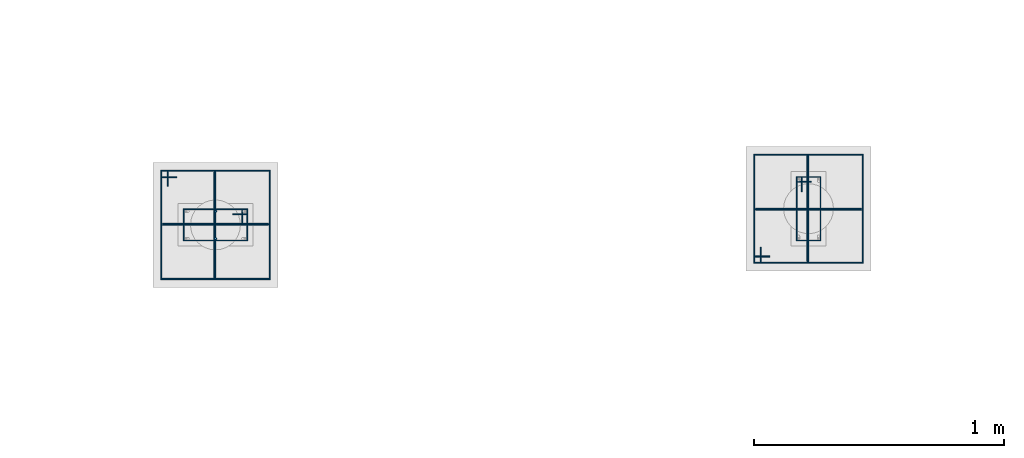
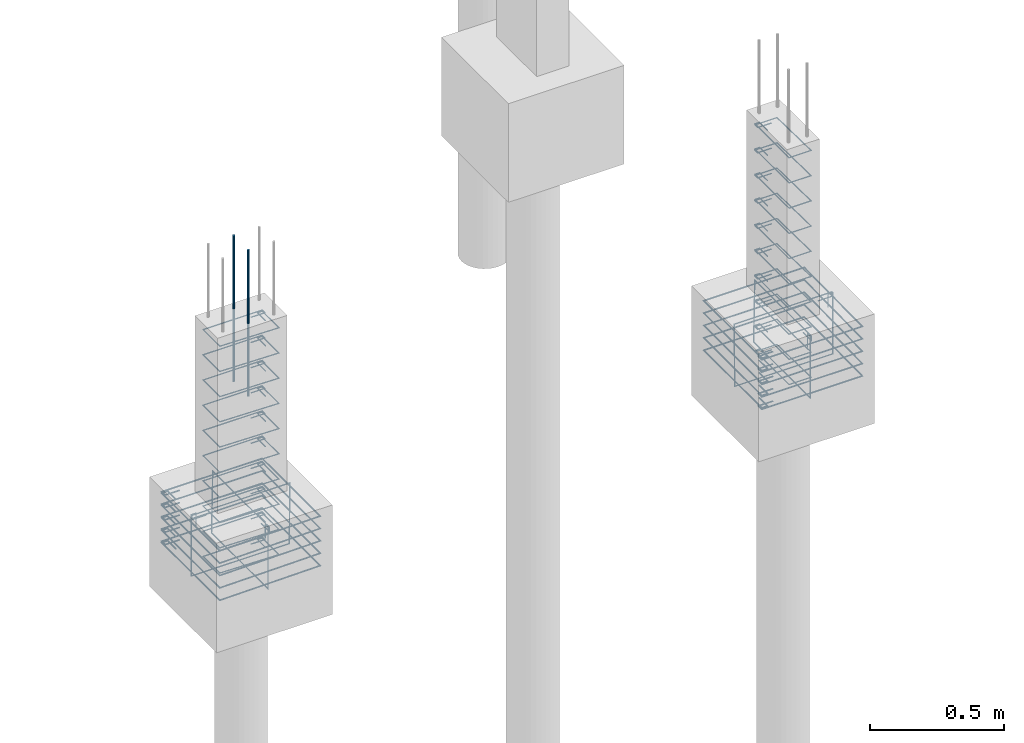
# One storey, part 84 of 119: 36 reinforcing bars.
"""IFC4 building model written with IfcOpenShell, lengths in centimetres."""

from ifc_helpers import new_model, entity, si_unit, derived_unit, frame, origin_with_axes, place, context, project, spatial, source, transform, mapped, element, save


model = new_model("IFC4")

# Units and contexts
model_context = context("Model", 3, precision=1e-05, world=origin_with_axes(), identifier="Body")
ifc_project = project(units=[si_unit("LENGTHUNIT", "METRE", prefix="CENTI"), si_unit("VOLUMEUNIT", "CUBIC_METRE"), si_unit("AREAUNIT", "SQUARE_METRE"), si_unit("POWERUNIT", "WATT"), si_unit("LUMINOUSFLUXUNIT", "LUMEN"), si_unit("ELECTRICCURRENTUNIT", "AMPERE"), si_unit("PRESSUREUNIT", "PASCAL", prefix="KILO"), si_unit("MASSUNIT", "GRAM", prefix="KILO"), si_unit("PLANEANGLEUNIT", "RADIAN"), derived_unit("VOLUMETRICFLOWRATEUNIT", [(si_unit("LENGTHUNIT", "METRE"), 3), (si_unit("TIMEUNIT", "SECOND"), -1)])], contexts=[model_context])

# Site, building, storey
site_placement = place(None, frame((-4000.0, 0.0, 0.0), z_axis=(0.0, 0.0, 1.0), x_axis=(1.0, 0.0, 0.0)))
site = spatial("IfcSite", under=ifc_project, at=site_placement, Name="PADRÃO")
building_placement = place(site_placement, frame((0.0, 0.0, -14.0)))
building = spatial("IfcBuilding", under=site, at=building_placement, Name="CRECHE PRÉ-ESCOLA TIPO 2")
storey_placement = place(building_placement, origin_with_axes())
storey = spatial("IfcBuildingStorey", under=building, at=storey_placement, Name="FUNDAÇÃO", CompositionType="ELEMENT", Elevation=-14.0)

# Reinforcing bars
shared_shape_1 = source(origin_with_axes(), model_context, "Body", "AdvancedSweptSolid", [
    entity("IfcSweptDiskSolid", entity("IfcCompositeCurve", [entity("IfcCompositeCurveSegment", "CONTINUOUS", True, entity("IfcPolyline", [entity("IfcCartesianPoint", [4.25, 21.75, 0.0]), entity("IfcCartesianPoint", [4.25, 27.75, 0.0])])), entity("IfcCompositeCurveSegment", "CONTINUOUS", True, entity("IfcPolyline", [entity("IfcCartesianPoint", [4.25, 27.75, 0.0]), entity("IfcCartesianPoint", [2.25, 27.75, 0.0])])), entity("IfcCompositeCurveSegment", "CONTINUOUS", True, entity("IfcPolyline", [entity("IfcCartesianPoint", [2.25, 27.75, 0.0]), entity("IfcCartesianPoint", [2.25, 2.25, 0.0])])), entity("IfcCompositeCurveSegment", "CONTINUOUS", True, entity("IfcPolyline", [entity("IfcCartesianPoint", [2.25, 2.25, 0.0]), entity("IfcCartesianPoint", [14.75, 2.25, 0.0])])), entity("IfcCompositeCurveSegment", "CONTINUOUS", True, entity("IfcPolyline", [entity("IfcCartesianPoint", [14.75, 2.25, 0.0]), entity("IfcCartesianPoint", [14.75, 27.75, -0.5])])), entity("IfcCompositeCurveSegment", "CONTINUOUS", True, entity("IfcPolyline", [entity("IfcCartesianPoint", [14.75, 27.75, -0.5]), entity("IfcCartesianPoint", [2.25, 27.75, -0.5])])), entity("IfcCompositeCurveSegment", "CONTINUOUS", True, entity("IfcPolyline", [entity("IfcCartesianPoint", [2.25, 27.75, -0.5]), entity("IfcCartesianPoint", [2.25, 25.75, -0.5])])), entity("IfcCompositeCurveSegment", "CONTINUOUS", True, entity("IfcPolyline", [entity("IfcCartesianPoint", [2.25, 25.75, -0.5]), entity("IfcCartesianPoint", [8.25, 25.75, -0.5])]))], False), 0.25),
])
for number, where, z_axis, x_axis, name in (
    (1, (251.0, 1823.5, -51.75), (0.0, 0.0, 1.0), (0.0, -1.0, 0.0), "P94 - Estribo"),
    (2, (251.0, 1823.5, -40.25), (0.0, 0.0, 1.0), (0.0, -1.0, 0.0), "P94 - Estribo"),
    (3, (251.0, 1823.5, -28.75), (0.0, 0.0, 1.0), (0.0, -1.0, 0.0), "P94 - Estribo"),
    (4, (251.0, 1823.5, -5.75), (0.0, 0.0, 1.0), (0.0, -1.0, 0.0), "P94 - Estribo"),
    (5, (251.0, 1823.5, -17.25), (0.0, 0.0, 1.0), (0.0, -1.0, 0.0), "P94 - Estribo"),
    (6, (251.0, 1823.5, -109.25), (0.0, 0.0, 1.0), (0.0, -1.0, 0.0), "P94 - Estribo"),
    (7, (251.0, 1823.5, -63.25), (0.0, 0.0, 1.0), (0.0, -1.0, 0.0), "P94 - Estribo"),
    (8, (251.0, 1823.5, -74.75), (0.0, 0.0, 1.0), (0.0, -1.0, 0.0), "P94 - Estribo"),
    (9, (251.0, 1823.5, -86.25), (0.0, 0.0, 1.0), (0.0, -1.0, 0.0), "P94 - Estribo"),
    (10, (251.0, 1823.5, -97.75), (0.0, 0.0, 1.0), (0.0, -1.0, 0.0), "P94 - Estribo"),
):
    element("IfcReinforcingBar", number, at=place(storey_placement, frame(where, z_axis=z_axis, x_axis=x_axis)), inside=storey, Name=name, BarLength=0.0, CrossSectionArea=1.9634954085e-05, NominalDiameter=0.5, PredefinedType="MAIN", context=model_context, shape_type="MappedRepresentation", body=[
        mapped(shared_shape_1, transform((0.0, 0.0, 0.0), scale=1.0)),
    ])
shared_shape_2 = source(origin_with_axes(), model_context, "Body", "AdvancedSweptSolid", [
    entity("IfcSweptDiskSolid", entity("IfcCompositeCurve", [entity("IfcCompositeCurveSegment", "CONTINUOUS", True, entity("IfcPolyline", [entity("IfcCartesianPoint", [246.835, 1830.425, 0.0]), entity("IfcCartesianPoint", [246.835, 1836.685, 0.0])])), entity("IfcCompositeCurveSegment", "CONTINUOUS", True, entity("IfcPolyline", [entity("IfcCartesianPoint", [246.835, 1836.685, 0.0]), entity("IfcCartesianPoint", [244.315, 1836.685, 0.0])])), entity("IfcCompositeCurveSegment", "CONTINUOUS", True, entity("IfcPolyline", [entity("IfcCartesianPoint", [244.315, 1836.685, 0.0]), entity("IfcCartesianPoint", [244.315, 1793.315, 0.0])])), entity("IfcCompositeCurveSegment", "CONTINUOUS", True, entity("IfcPolyline", [entity("IfcCartesianPoint", [244.315, 1793.315, 0.0]), entity("IfcCartesianPoint", [287.685, 1793.315, 0.63])])), entity("IfcCompositeCurveSegment", "CONTINUOUS", True, entity("IfcPolyline", [entity("IfcCartesianPoint", [287.685, 1793.315, 0.63]), entity("IfcCartesianPoint", [287.685, 1836.685, 0.63])])), entity("IfcCompositeCurveSegment", "CONTINUOUS", True, entity("IfcPolyline", [entity("IfcCartesianPoint", [287.685, 1836.685, 0.63]), entity("IfcCartesianPoint", [244.315, 1836.685, 0.63])])), entity("IfcCompositeCurveSegment", "CONTINUOUS", True, entity("IfcPolyline", [entity("IfcCartesianPoint", [244.315, 1836.685, 0.63]), entity("IfcCartesianPoint", [244.315, 1834.165, 0.63])])), entity("IfcCompositeCurveSegment", "CONTINUOUS", True, entity("IfcPolyline", [entity("IfcCartesianPoint", [244.315, 1834.165, 0.63]), entity("IfcCartesianPoint", [250.575, 1834.165, 0.63])]))], False), 0.315),
])
for number, where, z_axis, x_axis, name in (
    (11, (0.0, 0.0, -103.525), (0.0, 0.0, 1.0), (1.0, 0.0, 0.0), "P94 - Blocos (estribos)"),
    (12, (0.0, 0.0, -109.175), (0.0, 0.0, 1.0), (1.0, 0.0, 0.0), "P94 - Blocos (estribos)"),
    (13, (0.0, 0.0, -92.225), (0.0, 0.0, 1.0), (1.0, 0.0, 0.0), "P94 - Blocos (estribos)"),
    (14, (0.0, 0.0, -86.575), (0.0, 0.0, 1.0), (1.0, 0.0, 0.0), "P94 - Blocos (estribos)"),
    (15, (0.0, 0.0, -97.875), (0.0, 0.0, 1.0), (1.0, 0.0, 0.0), "P94 - Blocos (estribos)"),
):
    element("IfcReinforcingBar", number, at=place(storey_placement, frame(where, z_axis=z_axis, x_axis=x_axis)), inside=storey, Name=name, BarLength=0.0, CrossSectionArea=3.1172453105e-05, NominalDiameter=0.63, PredefinedType="MAIN", context=model_context, shape_type="MappedRepresentation", body=[
        mapped(shared_shape_2, transform((0.0, 0.0, 0.0), scale=1.0)),
    ])
shared_shape_3 = source(origin_with_axes(), model_context, "Body", "AdvancedSweptSolid", [
    entity("IfcSweptDiskSolid", entity("IfcCompositeCurve", [entity("IfcCompositeCurveSegment", "CONTINUOUS", True, entity("IfcPolyline", [entity("IfcCartesianPoint", [-15.12, -12.0, 0.0]), entity("IfcCartesianPoint", [-21.12, -12.0, 0.0])])), entity("IfcCompositeCurveSegment", "CONTINUOUS", True, entity("IfcPolyline", [entity("IfcCartesianPoint", [-21.12, -12.0, 0.0]), entity("IfcCartesianPoint", [-21.12, -14.0, 0.0])])), entity("IfcCompositeCurveSegment", "CONTINUOUS", True, entity("IfcPolyline", [entity("IfcCartesianPoint", [-21.12, -14.0, 0.0]), entity("IfcCartesianPoint", [21.12, -14.0, 0.0])])), entity("IfcCompositeCurveSegment", "CONTINUOUS", True, entity("IfcPolyline", [entity("IfcCartesianPoint", [21.12, -14.0, 0.0]), entity("IfcCartesianPoint", [21.12, 14.0, 0.5])])), entity("IfcCompositeCurveSegment", "CONTINUOUS", True, entity("IfcPolyline", [entity("IfcCartesianPoint", [21.12, 14.0, 0.5]), entity("IfcCartesianPoint", [-21.12, 14.0, 0.5])])), entity("IfcCompositeCurveSegment", "CONTINUOUS", True, entity("IfcPolyline", [entity("IfcCartesianPoint", [-21.12, 14.0, 0.5]), entity("IfcCartesianPoint", [-21.12, -14.0, 0.5])])), entity("IfcCompositeCurveSegment", "CONTINUOUS", True, entity("IfcPolyline", [entity("IfcCartesianPoint", [-21.12, -14.0, 0.5]), entity("IfcCartesianPoint", [-19.12, -14.0, 0.5])])), entity("IfcCompositeCurveSegment", "CONTINUOUS", True, entity("IfcPolyline", [entity("IfcCartesianPoint", [-19.12, -14.0, 0.5]), entity("IfcCartesianPoint", [-19.12, -8.0, 0.5])]))], False), 0.25),
])
reinforcing_bar_1_placement = place(storey_placement, frame((266.0, 1815.0, -97.75), z_axis=(0.0, 1.0, 0.0), x_axis=(1.0, 0.0, 0.0)))
element("IfcReinforcingBar", 16, at=reinforcing_bar_1_placement, inside=storey, Name="P94 - Blocos (estribos)", BarLength=0.0, CrossSectionArea=1.9634954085e-05, NominalDiameter=0.5, PredefinedType="MAIN", context=model_context, shape_type="MappedRepresentation", body=[
    mapped(shared_shape_3, transform((0.0, 0.0, 0.0), scale=1.0)),
])
shared_shape_4 = source(origin_with_axes(), model_context, "Body", "AdvancedSweptSolid", [
    entity("IfcSweptDiskSolid", entity("IfcCompositeCurve", [entity("IfcCompositeCurveSegment", "CONTINUOUS", True, entity("IfcPolyline", [entity("IfcCartesianPoint", [-15.12, -12.0, 0.0]), entity("IfcCartesianPoint", [-21.12, -12.0, 0.0])])), entity("IfcCompositeCurveSegment", "CONTINUOUS", True, entity("IfcPolyline", [entity("IfcCartesianPoint", [-21.12, -12.0, 0.0]), entity("IfcCartesianPoint", [-21.12, -14.0, 0.0])])), entity("IfcCompositeCurveSegment", "CONTINUOUS", True, entity("IfcPolyline", [entity("IfcCartesianPoint", [-21.12, -14.0, 0.0]), entity("IfcCartesianPoint", [21.12, -14.0, 0.0])])), entity("IfcCompositeCurveSegment", "CONTINUOUS", True, entity("IfcPolyline", [entity("IfcCartesianPoint", [21.12, -14.0, 0.0]), entity("IfcCartesianPoint", [21.12, 14.0, 0.5])])), entity("IfcCompositeCurveSegment", "CONTINUOUS", True, entity("IfcPolyline", [entity("IfcCartesianPoint", [21.12, 14.0, 0.5]), entity("IfcCartesianPoint", [-21.12, 14.0, 0.5])])), entity("IfcCompositeCurveSegment", "CONTINUOUS", True, entity("IfcPolyline", [entity("IfcCartesianPoint", [-21.12, 14.0, 0.5]), entity("IfcCartesianPoint", [-21.12, -14.0, 0.5])])), entity("IfcCompositeCurveSegment", "CONTINUOUS", True, entity("IfcPolyline", [entity("IfcCartesianPoint", [-21.12, -14.0, 0.5]), entity("IfcCartesianPoint", [-19.12, -14.0, 0.5])])), entity("IfcCompositeCurveSegment", "CONTINUOUS", True, entity("IfcPolyline", [entity("IfcCartesianPoint", [-19.12, -14.0, 0.5]), entity("IfcCartesianPoint", [-19.12, -8.0, 0.5])]))], False), 0.25),
])
reinforcing_bar_2_placement = place(storey_placement, frame((266.0, 1815.0, -97.75), z_axis=(-1.0, 0.0, 0.0), x_axis=(0.0, 1.0, 0.0)))
element("IfcReinforcingBar", 17, at=reinforcing_bar_2_placement, inside=storey, Name="P94 - Blocos (estribos)", BarLength=0.0, CrossSectionArea=1.9634954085e-05, NominalDiameter=0.5, PredefinedType="MAIN", context=model_context, shape_type="MappedRepresentation", body=[
    mapped(shared_shape_4, transform((0.0, 0.0, 0.0), scale=1.0)),
])
shared_shape_5 = source(origin_with_axes(), model_context, "Body", "AdvancedSweptSolid", [
    entity("IfcSweptDiskSolid", entity("IfcCompositeCurve", [entity("IfcCompositeCurveSegment", "CONTINUOUS", True, entity("IfcPolyline", [entity("IfcCartesianPoint", [4.25, 21.75, 0.0]), entity("IfcCartesianPoint", [4.25, 27.75, 0.0])])), entity("IfcCompositeCurveSegment", "CONTINUOUS", True, entity("IfcPolyline", [entity("IfcCartesianPoint", [4.25, 27.75, 0.0]), entity("IfcCartesianPoint", [2.25, 27.75, 0.0])])), entity("IfcCompositeCurveSegment", "CONTINUOUS", True, entity("IfcPolyline", [entity("IfcCartesianPoint", [2.25, 27.75, 0.0]), entity("IfcCartesianPoint", [2.25, 2.25, 0.0])])), entity("IfcCompositeCurveSegment", "CONTINUOUS", True, entity("IfcPolyline", [entity("IfcCartesianPoint", [2.25, 2.25, 0.0]), entity("IfcCartesianPoint", [11.75, 2.25, 0.0])])), entity("IfcCompositeCurveSegment", "CONTINUOUS", True, entity("IfcPolyline", [entity("IfcCartesianPoint", [11.75, 2.25, 0.0]), entity("IfcCartesianPoint", [11.75, 27.75, -0.5])])), entity("IfcCompositeCurveSegment", "CONTINUOUS", True, entity("IfcPolyline", [entity("IfcCartesianPoint", [11.75, 27.75, -0.5]), entity("IfcCartesianPoint", [2.25, 27.75, -0.5])])), entity("IfcCompositeCurveSegment", "CONTINUOUS", True, entity("IfcPolyline", [entity("IfcCartesianPoint", [2.25, 27.75, -0.5]), entity("IfcCartesianPoint", [2.25, 25.75, -0.5])])), entity("IfcCompositeCurveSegment", "CONTINUOUS", True, entity("IfcPolyline", [entity("IfcCartesianPoint", [2.25, 25.75, -0.5]), entity("IfcCartesianPoint", [8.25, 25.75, -0.5])]))], False), 0.25),
])
for number, where, z_axis, x_axis, name in (
    (18, (496.69, 1806.5, -17.25), (0.0, 0.0, 1.0), (1.0, 0.0, 0.0), "P95 - Estribo"),
    (19, (496.69, 1806.5, -109.25), (0.0, 0.0, 1.0), (1.0, 0.0, 0.0), "P95 - Estribo"),
    (20, (496.69, 1806.5, -28.75), (0.0, 0.0, 1.0), (1.0, 0.0, 0.0), "P95 - Estribo"),
    (21, (496.69, 1806.5, -51.75), (0.0, 0.0, 1.0), (1.0, 0.0, 0.0), "P95 - Estribo"),
    (22, (496.69, 1806.5, -5.75), (0.0, 0.0, 1.0), (1.0, 0.0, 0.0), "P95 - Estribo"),
    (23, (496.69, 1806.5, -97.75), (0.0, 0.0, 1.0), (1.0, 0.0, 0.0), "P95 - Estribo"),
    (24, (496.69, 1806.5, -86.25), (0.0, 0.0, 1.0), (1.0, 0.0, 0.0), "P95 - Estribo"),
    (25, (496.69, 1806.5, -74.75), (0.0, 0.0, 1.0), (1.0, 0.0, 0.0), "P95 - Estribo"),
    (26, (496.69, 1806.5, -63.25), (0.0, 0.0, 1.0), (1.0, 0.0, 0.0), "P95 - Estribo"),
    (27, (496.69, 1806.5, -40.25), (0.0, 0.0, 1.0), (1.0, 0.0, 0.0), "P95 - Estribo"),
):
    element("IfcReinforcingBar", number, at=place(storey_placement, frame(where, z_axis=z_axis, x_axis=x_axis)), inside=storey, Name=name, BarLength=0.0, CrossSectionArea=1.9634954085e-05, NominalDiameter=0.5, PredefinedType="MAIN", context=model_context, shape_type="MappedRepresentation", body=[
        mapped(shared_shape_5, transform((0.0, 0.0, 0.0), scale=1.0)),
    ])
shared_shape_6 = source(origin_with_axes(), model_context, "Body", "AdvancedSweptSolid", [
    entity("IfcSweptDiskSolid", entity("IfcCompositeCurve", [entity("IfcCompositeCurveSegment", "CONTINUOUS", True, entity("IfcPolyline", [entity("IfcCartesianPoint", [488.265, 1802.335, 0.0]), entity("IfcCartesianPoint", [482.005, 1802.335, 0.0])])), entity("IfcCompositeCurveSegment", "CONTINUOUS", True, entity("IfcPolyline", [entity("IfcCartesianPoint", [482.005, 1802.335, 0.0]), entity("IfcCartesianPoint", [482.005, 1799.815, 0.0])])), entity("IfcCompositeCurveSegment", "CONTINUOUS", True, entity("IfcPolyline", [entity("IfcCartesianPoint", [482.005, 1799.815, 0.0]), entity("IfcCartesianPoint", [525.375, 1799.815, 0.0])])), entity("IfcCompositeCurveSegment", "CONTINUOUS", True, entity("IfcPolyline", [entity("IfcCartesianPoint", [525.375, 1799.815, 0.0]), entity("IfcCartesianPoint", [525.375, 1843.185, 0.63])])), entity("IfcCompositeCurveSegment", "CONTINUOUS", True, entity("IfcPolyline", [entity("IfcCartesianPoint", [525.375, 1843.185, 0.63]), entity("IfcCartesianPoint", [482.005, 1843.185, 0.63])])), entity("IfcCompositeCurveSegment", "CONTINUOUS", True, entity("IfcPolyline", [entity("IfcCartesianPoint", [482.005, 1843.185, 0.63]), entity("IfcCartesianPoint", [482.005, 1799.815, 0.63])])), entity("IfcCompositeCurveSegment", "CONTINUOUS", True, entity("IfcPolyline", [entity("IfcCartesianPoint", [482.005, 1799.815, 0.63]), entity("IfcCartesianPoint", [484.525, 1799.815, 0.63])])), entity("IfcCompositeCurveSegment", "CONTINUOUS", True, entity("IfcPolyline", [entity("IfcCartesianPoint", [484.525, 1799.815, 0.63]), entity("IfcCartesianPoint", [484.525, 1806.075, 0.63])]))], False), 0.315),
])
for number, where, z_axis, x_axis, name in (
    (28, (0.0, 0.0, -109.175), (0.0, 0.0, 1.0), (1.0, 0.0, 0.0), "P95 - Blocos (estribos)"),
    (29, (0.0, 0.0, -103.525), (0.0, 0.0, 1.0), (1.0, 0.0, 0.0), "P95 - Blocos (estribos)"),
    (30, (0.0, 0.0, -97.875), (0.0, 0.0, 1.0), (1.0, 0.0, 0.0), "P95 - Blocos (estribos)"),
    (31, (0.0, 0.0, -86.575), (0.0, 0.0, 1.0), (1.0, 0.0, 0.0), "P95 - Blocos (estribos)"),
    (32, (0.0, 0.0, -92.225), (0.0, 0.0, 1.0), (1.0, 0.0, 0.0), "P95 - Blocos (estribos)"),
):
    element("IfcReinforcingBar", number, at=place(storey_placement, frame(where, z_axis=z_axis, x_axis=x_axis)), inside=storey, Name=name, BarLength=0.0, CrossSectionArea=3.1172453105e-05, NominalDiameter=0.63, PredefinedType="MAIN", context=model_context, shape_type="MappedRepresentation", body=[
        mapped(shared_shape_6, transform((0.0, 0.0, 0.0), scale=1.0)),
    ])
shared_shape_7 = source(origin_with_axes(), model_context, "Body", "AdvancedSweptSolid", [
    entity("IfcSweptDiskSolid", entity("IfcCompositeCurve", [entity("IfcCompositeCurveSegment", "CONTINUOUS", True, entity("IfcPolyline", [entity("IfcCartesianPoint", [-15.12, -12.0, 0.0]), entity("IfcCartesianPoint", [-21.12, -12.0, 0.0])])), entity("IfcCompositeCurveSegment", "CONTINUOUS", True, entity("IfcPolyline", [entity("IfcCartesianPoint", [-21.12, -12.0, 0.0]), entity("IfcCartesianPoint", [-21.12, -14.0, 0.0])])), entity("IfcCompositeCurveSegment", "CONTINUOUS", True, entity("IfcPolyline", [entity("IfcCartesianPoint", [-21.12, -14.0, 0.0]), entity("IfcCartesianPoint", [21.12, -14.0, 0.0])])), entity("IfcCompositeCurveSegment", "CONTINUOUS", True, entity("IfcPolyline", [entity("IfcCartesianPoint", [21.12, -14.0, 0.0]), entity("IfcCartesianPoint", [21.12, 14.0, 0.5])])), entity("IfcCompositeCurveSegment", "CONTINUOUS", True, entity("IfcPolyline", [entity("IfcCartesianPoint", [21.12, 14.0, 0.5]), entity("IfcCartesianPoint", [-21.12, 14.0, 0.5])])), entity("IfcCompositeCurveSegment", "CONTINUOUS", True, entity("IfcPolyline", [entity("IfcCartesianPoint", [-21.12, 14.0, 0.5]), entity("IfcCartesianPoint", [-21.12, -14.0, 0.5])])), entity("IfcCompositeCurveSegment", "CONTINUOUS", True, entity("IfcPolyline", [entity("IfcCartesianPoint", [-21.12, -14.0, 0.5]), entity("IfcCartesianPoint", [-19.12, -14.0, 0.5])])), entity("IfcCompositeCurveSegment", "CONTINUOUS", True, entity("IfcPolyline", [entity("IfcCartesianPoint", [-19.12, -14.0, 0.5]), entity("IfcCartesianPoint", [-19.12, -8.0, 0.5])]))], False), 0.25),
])
reinforcing_bar_3_placement = place(storey_placement, frame((503.69, 1821.5, -97.75), z_axis=(-1.0, 0.0, 0.0), x_axis=(0.0, 1.0, 0.0)))
element("IfcReinforcingBar", 33, at=reinforcing_bar_3_placement, inside=storey, Name="P95 - Blocos (estribos)", BarLength=0.0, CrossSectionArea=1.9634954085e-05, NominalDiameter=0.5, PredefinedType="MAIN", context=model_context, shape_type="MappedRepresentation", body=[
    mapped(shared_shape_7, transform((0.0, 0.0, 0.0), scale=1.0)),
])
shared_shape_8 = source(origin_with_axes(), model_context, "Body", "AdvancedSweptSolid", [
    entity("IfcSweptDiskSolid", entity("IfcCompositeCurve", [entity("IfcCompositeCurveSegment", "CONTINUOUS", True, entity("IfcPolyline", [entity("IfcCartesianPoint", [-15.12, -12.0, 0.0]), entity("IfcCartesianPoint", [-21.12, -12.0, 0.0])])), entity("IfcCompositeCurveSegment", "CONTINUOUS", True, entity("IfcPolyline", [entity("IfcCartesianPoint", [-21.12, -12.0, 0.0]), entity("IfcCartesianPoint", [-21.12, -14.0, 0.0])])), entity("IfcCompositeCurveSegment", "CONTINUOUS", True, entity("IfcPolyline", [entity("IfcCartesianPoint", [-21.12, -14.0, 0.0]), entity("IfcCartesianPoint", [21.12, -14.0, 0.0])])), entity("IfcCompositeCurveSegment", "CONTINUOUS", True, entity("IfcPolyline", [entity("IfcCartesianPoint", [21.12, -14.0, 0.0]), entity("IfcCartesianPoint", [21.12, 14.0, 0.5])])), entity("IfcCompositeCurveSegment", "CONTINUOUS", True, entity("IfcPolyline", [entity("IfcCartesianPoint", [21.12, 14.0, 0.5]), entity("IfcCartesianPoint", [-21.12, 14.0, 0.5])])), entity("IfcCompositeCurveSegment", "CONTINUOUS", True, entity("IfcPolyline", [entity("IfcCartesianPoint", [-21.12, 14.0, 0.5]), entity("IfcCartesianPoint", [-21.12, -14.0, 0.5])])), entity("IfcCompositeCurveSegment", "CONTINUOUS", True, entity("IfcPolyline", [entity("IfcCartesianPoint", [-21.12, -14.0, 0.5]), entity("IfcCartesianPoint", [-19.12, -14.0, 0.5])])), entity("IfcCompositeCurveSegment", "CONTINUOUS", True, entity("IfcPolyline", [entity("IfcCartesianPoint", [-19.12, -14.0, 0.5]), entity("IfcCartesianPoint", [-19.12, -8.0, 0.5])]))], False), 0.25),
])
reinforcing_bar_4_placement = place(storey_placement, frame((503.69, 1821.5, -97.75), z_axis=(0.0, -1.0, 0.0), x_axis=(-1.0, 0.0, 0.0)))
element("IfcReinforcingBar", 34, at=reinforcing_bar_4_placement, inside=storey, Name="P95 - Blocos (estribos)", BarLength=0.0, CrossSectionArea=1.9634954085e-05, NominalDiameter=0.5, PredefinedType="MAIN", context=model_context, shape_type="MappedRepresentation", body=[
    mapped(shared_shape_8, transform((0.0, 0.0, 0.0), scale=1.0)),
])
for number, where, z_axis, x_axis, name in (
    (35, (266.0, 1809.5, 33.3573001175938), (0.0, 0.0, 1.0), (1.0, 0.0, 0.0), "P94 - Longitudinal"),
    (36, (266.0, 1820.5, 33.3573001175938), (0.0, 0.0, 1.0), (1.0, 0.0, 0.0), "P94 - Longitudinal"),
):
    element("IfcReinforcingBar", number, at=place(storey_placement, frame(where, z_axis=z_axis, x_axis=x_axis)), inside=storey, Name=name, BarLength=0.0, CrossSectionArea=7.853981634e-05, NominalDiameter=1.0, PredefinedType="MAIN", context=model_context, shape_type="AdvancedSweptSolid", body=[
        entity("IfcSweptDiskSolid", entity("IfcCompositeCurve", [entity("IfcCompositeCurveSegment", "CONTINUOUS", True, entity("IfcPolyline", [entity("IfcCartesianPoint", [0.0, 0.0, -66.7146002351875]), entity("IfcCartesianPoint", [0.0, 0.0, 0.0])]))], False), 0.5),
    ])

save(model, "model.ifc")
